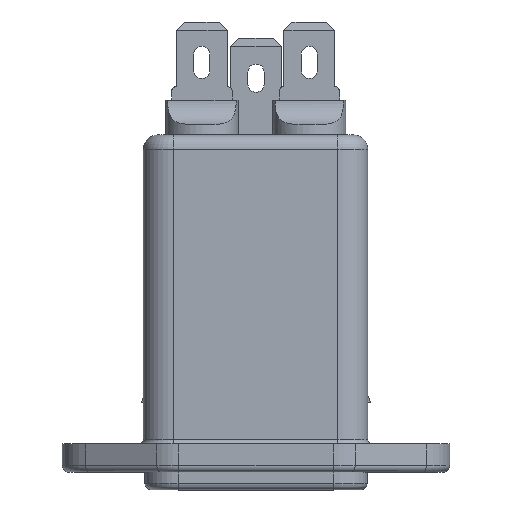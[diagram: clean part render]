
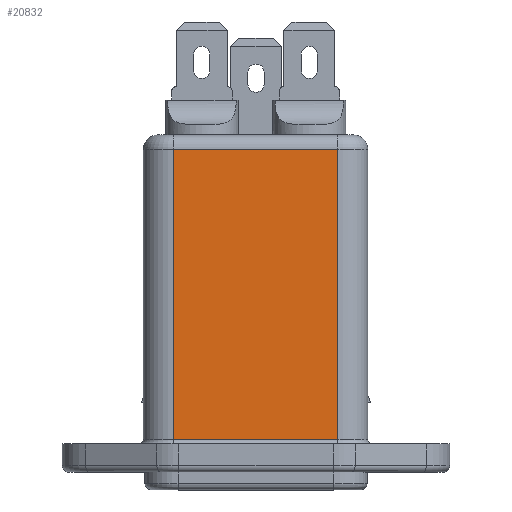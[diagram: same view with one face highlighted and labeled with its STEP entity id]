
A CAD part, top view. The second image highlights one B-rep face of the part: STEP entity #20832.
In plain terms, the highlighted planar face has unit normal (0, 0, 1).
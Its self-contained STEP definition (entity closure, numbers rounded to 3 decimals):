
#19366=CARTESIAN_POINT('',(-10.25,2.85,10.05));
#19367=VERTEX_POINT('',#19366);
#19410=CARTESIAN_POINT('',(10.15,2.85,10.05));
#19411=VERTEX_POINT('',#19410);
#19419=CARTESIAN_POINT('',(10.15,2.85,10.05));
#19420=DIRECTION('',(-1.0,0.0,0.0));
#19421=VECTOR('',#19420,20.4);
#19422=LINE('',#19419,#19421);
#19423=EDGE_CURVE('',#19411,#19367,#19422,.T.);
#19715=CARTESIAN_POINT('',(-10.25,38.8,10.05));
#19716=VERTEX_POINT('',#19715);
#19717=CARTESIAN_POINT('',(-10.25,2.85,10.05));
#19718=DIRECTION('',(0.0,1.0,0.0));
#19719=VECTOR('',#19718,35.95);
#19720=LINE('',#19717,#19719);
#19721=EDGE_CURVE('',#19367,#19716,#19720,.T.);
#20256=CARTESIAN_POINT('',(10.15,38.8,10.05));
#20257=VERTEX_POINT('',#20256);
#20322=CARTESIAN_POINT('',(-10.25,38.8,10.05));
#20323=DIRECTION('',(1.0,0.0,0.0));
#20324=VECTOR('',#20323,20.4);
#20325=LINE('',#20322,#20324);
#20326=EDGE_CURVE('',#19716,#20257,#20325,.T.);
#20812=CARTESIAN_POINT('',(10.15,2.85,10.05));
#20813=DIRECTION('',(0.0,1.0,0.0));
#20814=VECTOR('',#20813,35.95);
#20815=LINE('',#20812,#20814);
#20816=EDGE_CURVE('',#19411,#20257,#20815,.T.);
#20821=CARTESIAN_POINT('',(10.15,1.95,10.05));
#20822=DIRECTION('',(0.0,0.0,1.0));
#20823=DIRECTION('',(1.0,0.0,0.0));
#20824=AXIS2_PLACEMENT_3D('',#20821,#20822,#20823);
#20825=PLANE('',#20824);
#20826=ORIENTED_EDGE('',*,*,#19423,.F.);
#20827=ORIENTED_EDGE('',*,*,#20816,.T.);
#20828=ORIENTED_EDGE('',*,*,#20326,.F.);
#20829=ORIENTED_EDGE('',*,*,#19721,.F.);
#20830=EDGE_LOOP('',(#20826,#20827,#20828,#20829));
#20831=FACE_OUTER_BOUND('',#20830,.T.);
#20832=ADVANCED_FACE('',(#20831),#20825,.T.);
